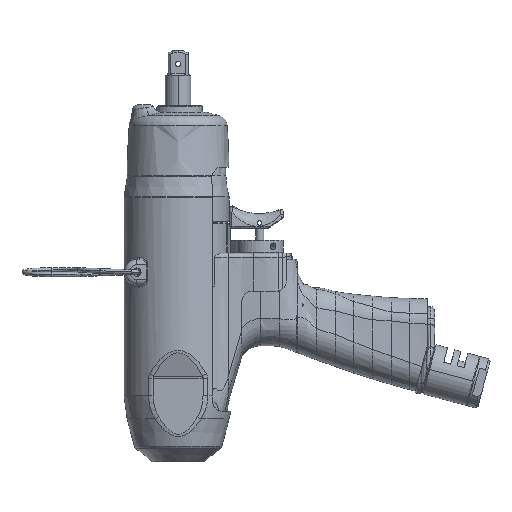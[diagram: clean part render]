
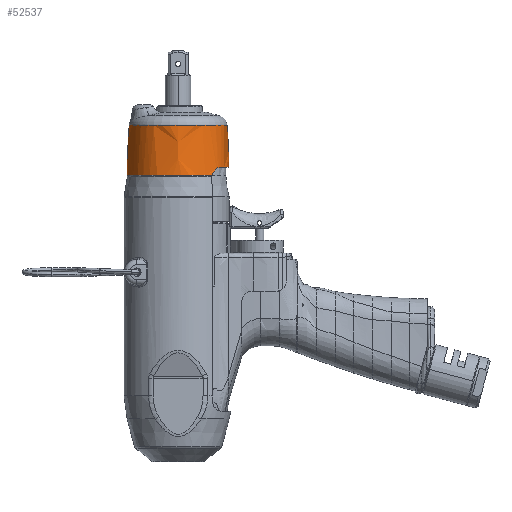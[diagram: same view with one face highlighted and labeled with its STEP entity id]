
A CAD part, left-side view. The second image highlights one B-rep face of the part: STEP entity #52537.
In plain terms, the highlighted free-form (B-spline) face has degree [3, 3] with [7, 4] control points.
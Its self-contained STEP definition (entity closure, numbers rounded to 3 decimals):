
#48400=CARTESIAN_POINT('',(0.,0.,26.));
#48401=DIRECTION('',(0.,0.,1.));
#48402=DIRECTION('',(-0.549,-0.836,0.));
#48403=AXIS2_PLACEMENT_3D('',#48400,#48401,#48402);
#48445=CARTESIAN_POINT('',(-13.152,-20.042,26.));
#48446=CARTESIAN_POINT('',(-13.678,-19.698,26.));
#48447=CARTESIAN_POINT('',(-14.681,-18.983,
25.841));
#48448=CARTESIAN_POINT('',(-16.032,-17.858,
25.168));
#48449=CARTESIAN_POINT('',(-16.994,-16.944,
24.281));
#48450=CARTESIAN_POINT('',(-17.673,-16.235,
23.247));
#48451=CARTESIAN_POINT('',(-17.932,-15.944,
22.514));
#48452=CARTESIAN_POINT('',(-18.019,-15.845,
22.149));
#48879=CARTESIAN_POINT('',(0.,0.,45.848));
#48880=DIRECTION('',(0.,0.,1.));
#48881=DIRECTION('',(0.,1.,0.));
#48882=AXIS2_PLACEMENT_3D('',#48879,#48880,#48881);
#48896=CARTESIAN_POINT('',(0.,0.,22.149));
#48897=DIRECTION('',(0.,0.,-1.));
#48898=DIRECTION('',(-0.751,-0.66,0.));
#48899=AXIS2_PLACEMENT_3D('',#48896,#48897,#48898);
#49258=CARTESIAN_POINT('',(0.,278.005,
22.339));
#49259=DIRECTION('',(-1.,0.,0.));
#49260=DIRECTION('',(0.,-1.,0.012));
#49261=AXIS2_PLACEMENT_3D('',#49258,#49259,#49260);
#49268=CARTESIAN_POINT('',(0.,-278.005,
22.339));
#49269=DIRECTION('',(-1.,0.,0.));
#49270=DIRECTION('',(0.,0.997,0.078));
#49271=AXIS2_PLACEMENT_3D('',#49268,#49269,#49270);
#50648=CARTESIAN_POINT('',(-13.152,-20.042,26.));
#50650=VERTEX_POINT('',#50648);
#50653=CARTESIAN_POINT('',(0.,-23.972,26.));
#50654=VERTEX_POINT('',#50653);
#50655=VERTEX_POINT('',#48452);
#50702=CARTESIAN_POINT('',(0.,23.078,45.848));
#50703=VERTEX_POINT('',#50702);
#50704=CARTESIAN_POINT('',(0.,-23.078,
45.848));
#50705=VERTEX_POINT('',#50704);
#50708=CARTESIAN_POINT('',(0.,23.995,
22.149));
#50709=VERTEX_POINT('',#50708);
#52497=CARTESIAN_POINT('',(1.507,23.947,21.674));
#52498=CARTESIAN_POINT('',(1.508,23.965,29.9));
#52499=CARTESIAN_POINT('',(1.488,23.647,38.121));
#52500=CARTESIAN_POINT('',(1.447,22.995,46.321));
#52501=CARTESIAN_POINT('',(-13.23,24.874,
21.674));
#52502=CARTESIAN_POINT('',(-13.24,24.893,
29.9));
#52503=CARTESIAN_POINT('',(-13.065,24.563,
38.121));
#52504=CARTESIAN_POINT('',(-12.705,23.886,
46.321));
#52505=CARTESIAN_POINT('',(-23.994,14.766,
21.674));
#52506=CARTESIAN_POINT('',(-24.012,14.777,
29.9));
#52507=CARTESIAN_POINT('',(-23.694,14.581,
38.121));
#52508=CARTESIAN_POINT('',(-23.041,14.179,
46.321));
#52509=CARTESIAN_POINT('',(-23.994,0.,
21.674));
#52510=CARTESIAN_POINT('',(-24.012,0.,
29.9));
#52511=CARTESIAN_POINT('',(-23.694,0.,
38.121));
#52512=CARTESIAN_POINT('',(-23.041,0.,
46.321));
#52513=CARTESIAN_POINT('',(-23.994,-14.766,
21.674));
#52514=CARTESIAN_POINT('',(-24.012,-14.777,
29.9));
#52515=CARTESIAN_POINT('',(-23.694,-14.581,
38.121));
#52516=CARTESIAN_POINT('',(-23.041,-14.179,
46.321));
#52517=CARTESIAN_POINT('',(-13.23,-24.874,
21.674));
#52518=CARTESIAN_POINT('',(-13.24,-24.893,
29.9));
#52519=CARTESIAN_POINT('',(-13.065,-24.563,
38.121));
#52520=CARTESIAN_POINT('',(-12.705,-23.886,
46.321));
#52521=CARTESIAN_POINT('',(1.507,-23.947,
21.674));
#52522=CARTESIAN_POINT('',(1.508,-23.965,
29.9));
#52523=CARTESIAN_POINT('',(1.488,-23.647,
38.121));
#52524=CARTESIAN_POINT('',(1.447,-22.995,
46.321));
#52525=(BOUNDED_SURFACE()B_SPLINE_SURFACE(3,3,((#52497,#52498,#52499,#52500),(
#52501,#52502,#52503,#52504),(#52505,#52506,#52507,#52508),(#52509,#52510,
#52511,#52512),(#52513,#52514,#52515,#52516),(#52517,#52518,#52519,#52520),(
#52521,#52522,#52523,#52524)),.UNSPECIFIED.,.F.,.F.,.F.)B_SPLINE_SURFACE_WITH_KNOTS((4,3,4),(4,4),(0.,1.,2.),(0.,1.),.UNSPECIFIED.)GEOMETRIC_REPRESENTATION_ITEM()RATIONAL_B_SPLINE_SURFACE(((1.188,1.187,
1.187,1.188),(0.938,0.937,
0.937,0.938),(0.938,0.937,
0.937,0.938),(1.188,1.187,
1.187,1.188),(0.938,0.937,
0.937,0.938),(0.938,0.937,
0.937,0.938),(1.188,1.187,
1.187,1.188)))REPRESENTATION_ITEM('')SURFACE());
#52526=ORIENTED_EDGE('',*,*,#51616,.F.);
#52527=ORIENTED_EDGE('',*,*,#51641,.T.);
#52529=ORIENTED_EDGE('',*,*,#52528,.T.);
#52531=ORIENTED_EDGE('',*,*,#52530,.F.);
#52532=ORIENTED_EDGE('',*,*,#52491,.T.);
#52534=ORIENTED_EDGE('',*,*,#52533,.F.);
#52535=EDGE_LOOP('',(#52526,#52527,#52529,#52531,#52532,#52534));
#52536=FACE_OUTER_BOUND('',#52535,.F.);
#52537=ADVANCED_FACE('',(#52536),#52525,.T.);
#48404=CIRCLE('',#48403,23.972);
#48453=B_SPLINE_CURVE_WITH_KNOTS('',3,(#48445,#48446,#48447,#48448,#48449,
#48450,#48451,#48452),.UNSPECIFIED.,.F.,.F.,(4,1,1,1,1,4),(0.,0.2,0.4,
0.6,0.8,1.),.UNSPECIFIED.);
#48883=CIRCLE('',#48882,23.078);
#48900=CIRCLE('',#48899,23.995);
#49262=CIRCLE('',#49261,302.);
#49272=CIRCLE('',#49271,302.);
#51616=EDGE_CURVE('',#50650,#50654,#48404,.T.);
#51641=EDGE_CURVE('',#50650,#50655,#48453,.T.);
#52491=EDGE_CURVE('',#50703,#50705,#48883,.T.);
#52528=EDGE_CURVE('',#50655,#50709,#48900,.T.);
#52530=EDGE_CURVE('',#50703,#50709,#49272,.T.);
#52533=EDGE_CURVE('',#50654,#50705,#49262,.T.);
